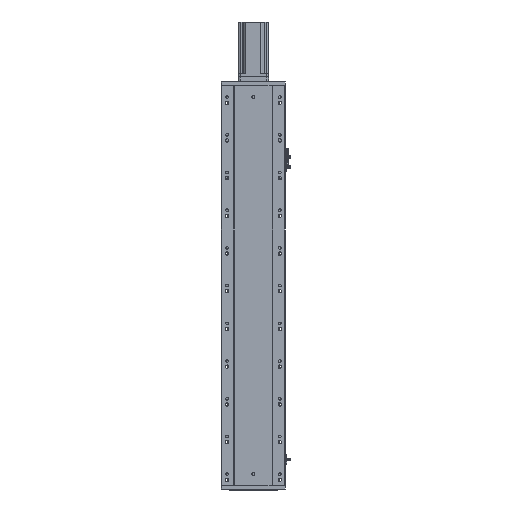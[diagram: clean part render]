
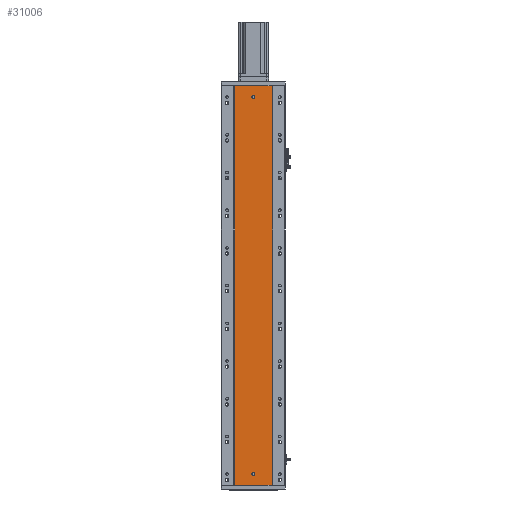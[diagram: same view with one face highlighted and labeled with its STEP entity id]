
A CAD part, front view. The second image highlights one B-rep face of the part: STEP entity #31006.
In plain terms, the highlighted planar face has unit normal (0, -1, 0).
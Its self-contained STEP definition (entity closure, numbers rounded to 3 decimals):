
#868 = DIRECTION ( 'NONE',  ( 0., -1., 0. ) ) ;
#1922 = CIRCLE ( 'NONE', #22417, 4. ) ;
#2014 = EDGE_CURVE ( 'NONE', #72917, #12433, #53145, .T. ) ;
#2718 = FACE_BOUND ( 'NONE', #25280, .T. ) ;
#4783 = CARTESIAN_POINT ( 'NONE',  ( 0., 79.476, 1060. ) ) ;
#5031 = EDGE_LOOP ( 'NONE', ( #72779, #34217 ) ) ;
#5068 = AXIS2_PLACEMENT_3D ( 'NONE', #4783, #56297, #5288 ) ;
#5288 = DIRECTION ( 'NONE',  ( 0., 0., 1. ) ) ;
#5584 = CARTESIAN_POINT ( 'NONE',  ( 136.47, 79.476, 34. ) ) ;
#5790 = VERTEX_POINT ( 'NONE', #63189 ) ;
#7716 = VECTOR ( 'NONE', #22696, 1000. ) ;
#8700 = CARTESIAN_POINT ( 'NONE',  ( 86.97, 79.476, 353.333 ) ) ;
#10465 = AXIS2_PLACEMENT_3D ( 'NONE', #63135, #51776, #63626 ) ;
#12193 = EDGE_LOOP ( 'NONE', ( #26573, #65177, #71836, #45299 ) ) ;
#12433 = VERTEX_POINT ( 'NONE', #45444 ) ;
#13603 = FACE_OUTER_BOUND ( 'NONE', #12193, .T. ) ;
#16698 = CARTESIAN_POINT ( 'NONE',  ( 136.47, 79.476, 30. ) ) ;
#21304 = EDGE_CURVE ( 'NONE', #31728, #62388, #68147, .T. ) ;
#22288 = DIRECTION ( 'NONE',  ( 0., -1., 0. ) ) ;
#22417 = AXIS2_PLACEMENT_3D ( 'NONE', #33660, #73270, #33414 ) ;
#22696 = DIRECTION ( 'NONE',  ( 1., 0., 0. ) ) ;
#23070 = LINE ( 'NONE', #28777, #7716 ) ;
#23587 = EDGE_CURVE ( 'NONE', #12433, #72917, #28754, .T. ) ;
#24133 = DIRECTION ( 'NONE',  ( 0., 0., -1. ) ) ;
#24384 = CARTESIAN_POINT ( 'NONE',  ( 136.47, 79.476, 1030. ) ) ;
#24421 = VERTEX_POINT ( 'NONE', #66773 ) ;
#25280 = EDGE_LOOP ( 'NONE', ( #67148, #67824 ) ) ;
#25345 = CIRCLE ( 'NONE', #30238, 4. ) ;
#26471 = CARTESIAN_POINT ( 'NONE',  ( 185.97, 79.476, 706.667 ) ) ;
#26573 = ORIENTED_EDGE ( 'NONE', *, *, #27752, .T. ) ;
#27752 = EDGE_CURVE ( 'NONE', #62388, #29545, #23070, .T. ) ;
#28754 = CIRCLE ( 'NONE', #10465, 4. ) ;
#28777 = CARTESIAN_POINT ( 'NONE',  ( 0., 79.476, 0. ) ) ;
#29545 = VERTEX_POINT ( 'NONE', #46165 ) ;
#30238 = AXIS2_PLACEMENT_3D ( 'NONE', #24384, #868, #24133 ) ;
#30394 = EDGE_CURVE ( 'NONE', #46639, #24421, #1922, .T. ) ;
#31006 = ADVANCED_FACE ( 'NONE', ( #46118, #2718, #13603 ), #33828, .F. ) ;
#31728 = VERTEX_POINT ( 'NONE', #40272 ) ;
#33414 = DIRECTION ( 'NONE',  ( 0., 0., -1. ) ) ;
#33660 = CARTESIAN_POINT ( 'NONE',  ( 136.47, 79.476, 1030. ) ) ;
#33828 = PLANE ( 'NONE',  #5068 ) ;
#34217 = ORIENTED_EDGE ( 'NONE', *, *, #74674, .F. ) ;
#34455 = AXIS2_PLACEMENT_3D ( 'NONE', #16698, #22288, #68493 ) ;
#40272 = CARTESIAN_POINT ( 'NONE',  ( 86.97, 79.476, 1060. ) ) ;
#41831 = CARTESIAN_POINT ( 'NONE',  ( 136.47, 79.476, 1026. ) ) ;
#45299 = ORIENTED_EDGE ( 'NONE', *, *, #21304, .T. ) ;
#45444 = CARTESIAN_POINT ( 'NONE',  ( 136.47, 79.476, 26. ) ) ;
#46118 = FACE_BOUND ( 'NONE', #5031, .T. ) ;
#46165 = CARTESIAN_POINT ( 'NONE',  ( 185.97, 79.476, 0. ) ) ;
#46639 = VERTEX_POINT ( 'NONE', #41831 ) ;
#47112 = LINE ( 'NONE', #65797, #63383 ) ;
#51776 = DIRECTION ( 'NONE',  ( 0., -1., 0. ) ) ;
#51822 = B_SPLINE_CURVE_WITH_KNOTS ( 'NONE', 3,
 ( #61804, #26471, #55763, #73151 ),
 .UNSPECIFIED., .F., .F.,
 ( 4, 4 ),
 ( 0., 1. ),
 .UNSPECIFIED. ) ;
#52399 = EDGE_CURVE ( 'NONE', #5790, #29545, #51822, .T. ) ;
#53145 = CIRCLE ( 'NONE', #34455, 4. ) ;
#55160 = EDGE_CURVE ( 'NONE', #31728, #5790, #47112, .T. ) ;
#55423 = CARTESIAN_POINT ( 'NONE',  ( 86.97, 79.476, 706.667 ) ) ;
#55763 = CARTESIAN_POINT ( 'NONE',  ( 185.97, 79.476, 353.333 ) ) ;
#56297 = DIRECTION ( 'NONE',  ( 0., 1., 0. ) ) ;
#56905 = CARTESIAN_POINT ( 'NONE',  ( 86.97, 79.476, 0. ) ) ;
#60730 = DIRECTION ( 'NONE',  ( 1., 0., 0. ) ) ;
#61804 = CARTESIAN_POINT ( 'NONE',  ( 185.97, 79.476, 1060. ) ) ;
#62388 = VERTEX_POINT ( 'NONE', #56905 ) ;
#63135 = CARTESIAN_POINT ( 'NONE',  ( 136.47, 79.476, 30. ) ) ;
#63189 = CARTESIAN_POINT ( 'NONE',  ( 185.97, 79.476, 1060. ) ) ;
#63383 = VECTOR ( 'NONE', #60730, 1000. ) ;
#63626 = DIRECTION ( 'NONE',  ( 0., 0., -1. ) ) ;
#65177 = ORIENTED_EDGE ( 'NONE', *, *, #52399, .F. ) ;
#65797 = CARTESIAN_POINT ( 'NONE',  ( 0., 79.476, 1060. ) ) ;
#66773 = CARTESIAN_POINT ( 'NONE',  ( 136.47, 79.476, 1034. ) ) ;
#67148 = ORIENTED_EDGE ( 'NONE', *, *, #23587, .F. ) ;
#67824 = ORIENTED_EDGE ( 'NONE', *, *, #2014, .F. ) ;
#68147 = B_SPLINE_CURVE_WITH_KNOTS ( 'NONE', 3,
 ( #72813, #55423, #8700, #72053 ),
 .UNSPECIFIED., .F., .F.,
 ( 4, 4 ),
 ( 0., 1. ),
 .UNSPECIFIED. ) ;
#68493 = DIRECTION ( 'NONE',  ( 0., 0., -1. ) ) ;
#71836 = ORIENTED_EDGE ( 'NONE', *, *, #55160, .F. ) ;
#72053 = CARTESIAN_POINT ( 'NONE',  ( 86.97, 79.476, 0. ) ) ;
#72779 = ORIENTED_EDGE ( 'NONE', *, *, #30394, .F. ) ;
#72813 = CARTESIAN_POINT ( 'NONE',  ( 86.97, 79.476, 1060. ) ) ;
#72917 = VERTEX_POINT ( 'NONE', #5584 ) ;
#73151 = CARTESIAN_POINT ( 'NONE',  ( 185.97, 79.476, 0. ) ) ;
#73270 = DIRECTION ( 'NONE',  ( 0., -1., 0. ) ) ;
#74674 = EDGE_CURVE ( 'NONE', #24421, #46639, #25345, .T. ) ;
